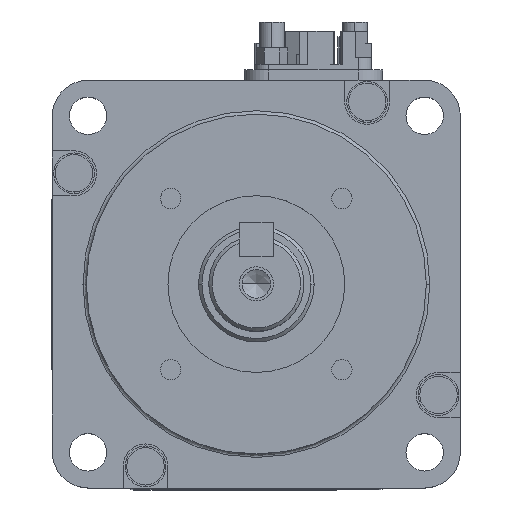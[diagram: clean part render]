
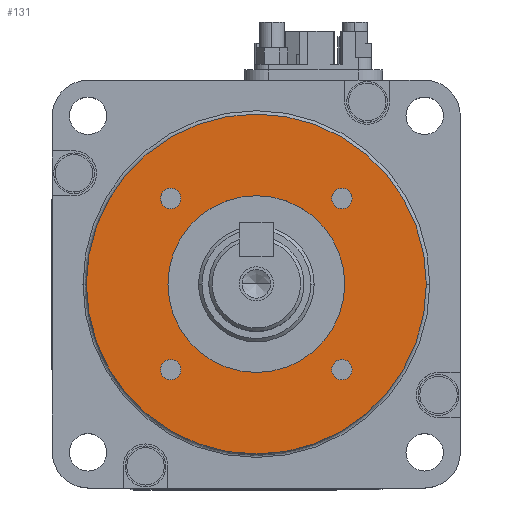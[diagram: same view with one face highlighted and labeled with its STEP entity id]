
A CAD part, top view. The second image highlights one B-rep face of the part: STEP entity #131.
In plain terms, the highlighted planar face has unit normal (0, 0, 1).
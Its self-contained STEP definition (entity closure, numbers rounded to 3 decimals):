
#131=ADVANCED_FACE('',(#845,#846,#847,#848,#849,#850),#844,.T.);
#844=PLANE('',#6167);
#845=FACE_OUTER_BOUND('',#6168,.T.);
#846=FACE_BOUND('',#6169,.T.);
#847=FACE_BOUND('',#6170,.T.);
#848=FACE_BOUND('',#6171,.T.);
#849=FACE_BOUND('',#6172,.T.);
#850=FACE_BOUND('',#6173,.T.);
#6164=CARTESIAN_POINT('',(-57.5,-51.962,3.));
#6165=DIRECTION('',(0.,0.,1.));
#6166=DIRECTION('',(1.,0.,0.));
#6167=AXIS2_PLACEMENT_3D('',#6164,#6165,#6166);
#6168=EDGE_LOOP('',(#9006,#9007));
#6169=EDGE_LOOP('',(#9008,#9009));
#6170=EDGE_LOOP('',(#9010,#9011));
#6171=EDGE_LOOP('',(#9012,#9013));
#6172=EDGE_LOOP('',(#9014,#9015));
#6173=EDGE_LOOP('',(#9016,#9017));
#9006=ORIENTED_EDGE('',*,*,#11791,.T.);
#9007=ORIENTED_EDGE('',*,*,#11792,.T.);
#9008=ORIENTED_EDGE('',*,*,#11793,.F.);
#9009=ORIENTED_EDGE('',*,*,#11794,.F.);
#9010=ORIENTED_EDGE('',*,*,#11795,.F.);
#9011=ORIENTED_EDGE('',*,*,#11796,.F.);
#9012=ORIENTED_EDGE('',*,*,#11797,.F.);
#9013=ORIENTED_EDGE('',*,*,#11798,.F.);
#9014=ORIENTED_EDGE('',*,*,#11799,.F.);
#9015=ORIENTED_EDGE('',*,*,#11800,.F.);
#9016=ORIENTED_EDGE('',*,*,#11801,.F.);
#9017=ORIENTED_EDGE('',*,*,#11802,.F.);
#11791=EDGE_CURVE('',#13860,#13861,#13862,.T.);
#11792=EDGE_CURVE('',#13861,#13860,#13868,.T.);
#11793=EDGE_CURVE('',#13874,#13875,#13876,.T.);
#11794=EDGE_CURVE('',#13875,#13874,#13882,.T.);
#11795=EDGE_CURVE('',#13888,#13889,#13890,.T.);
#11796=EDGE_CURVE('',#13889,#13888,#13896,.T.);
#11797=EDGE_CURVE('',#13902,#13903,#13904,.T.);
#11798=EDGE_CURVE('',#13903,#13902,#13910,.T.);
#11799=EDGE_CURVE('',#13916,#13917,#13918,.T.);
#11800=EDGE_CURVE('',#13917,#13916,#13924,.T.);
#11801=EDGE_CURVE('',#13930,#13931,#13932,.T.);
#11802=EDGE_CURVE('',#13931,#13930,#13938,.T.);
#13860=VERTEX_POINT('',#22968);
#13861=VERTEX_POINT('',#22969);
#13862=CIRCLE('',#22973,25.);
#13868=CIRCLE('',#22977,25.);
#13874=VERTEX_POINT('',#22978);
#13875=VERTEX_POINT('',#22979);
#13876=CIRCLE('',#22983,1.5);
#13882=CIRCLE('',#22987,1.5);
#13888=VERTEX_POINT('',#22988);
#13889=VERTEX_POINT('',#22989);
#13890=CIRCLE('',#22993,1.5);
#13896=CIRCLE('',#22997,1.5);
#13902=VERTEX_POINT('',#22998);
#13903=VERTEX_POINT('',#22999);
#13904=CIRCLE('',#23003,1.5);
#13910=CIRCLE('',#23007,1.5);
#13916=VERTEX_POINT('',#23008);
#13917=VERTEX_POINT('',#23009);
#13918=CIRCLE('',#23013,1.5);
#13924=CIRCLE('',#23017,1.5);
#13930=VERTEX_POINT('',#23018);
#13931=VERTEX_POINT('',#23019);
#13932=CIRCLE('',#23023,13.);
#13938=CIRCLE('',#23027,13.);
#22968=CARTESIAN_POINT('',(25.,0.,3.));
#22969=CARTESIAN_POINT('',(-25.,0.,3.));
#22970=CARTESIAN_POINT('',(0.,0.,3.));
#22971=DIRECTION('',(0.,0.,1.));
#22972=DIRECTION('',(1.,0.,0.));
#22973=AXIS2_PLACEMENT_3D('',#22970,#22971,#22972);
#22974=CARTESIAN_POINT('',(0.,0.,3.));
#22975=DIRECTION('',(0.,0.,1.));
#22976=DIRECTION('',(1.,0.,0.));
#22977=AXIS2_PLACEMENT_3D('',#22974,#22975,#22976);
#22978=CARTESIAN_POINT('',(14.087,-12.587,3.));
#22979=CARTESIAN_POINT('',(11.087,-12.587,3.));
#22980=CARTESIAN_POINT('',(12.587,-12.587,3.));
#22981=DIRECTION('',(0.,0.,1.));
#22982=DIRECTION('',(-1.,0.,0.));
#22983=AXIS2_PLACEMENT_3D('',#22980,#22981,#22982);
#22984=CARTESIAN_POINT('',(12.587,-12.587,3.));
#22985=DIRECTION('',(0.,0.,1.));
#22986=DIRECTION('',(-1.,0.,0.));
#22987=AXIS2_PLACEMENT_3D('',#22984,#22985,#22986);
#22988=CARTESIAN_POINT('',(-11.087,-12.587,3.));
#22989=CARTESIAN_POINT('',(-14.087,-12.587,3.));
#22990=CARTESIAN_POINT('',(-12.587,-12.587,3.));
#22991=DIRECTION('',(0.,0.,1.));
#22992=DIRECTION('',(-1.,0.,0.));
#22993=AXIS2_PLACEMENT_3D('',#22990,#22991,#22992);
#22994=CARTESIAN_POINT('',(-12.587,-12.587,3.));
#22995=DIRECTION('',(0.,0.,1.));
#22996=DIRECTION('',(-1.,0.,0.));
#22997=AXIS2_PLACEMENT_3D('',#22994,#22995,#22996);
#22998=CARTESIAN_POINT('',(-11.087,12.587,3.));
#22999=CARTESIAN_POINT('',(-14.087,12.587,3.));
#23000=CARTESIAN_POINT('',(-12.587,12.587,3.));
#23001=DIRECTION('',(0.,0.,1.));
#23002=DIRECTION('',(-1.,0.,0.));
#23003=AXIS2_PLACEMENT_3D('',#23000,#23001,#23002);
#23004=CARTESIAN_POINT('',(-12.587,12.587,3.));
#23005=DIRECTION('',(0.,0.,1.));
#23006=DIRECTION('',(-1.,0.,0.));
#23007=AXIS2_PLACEMENT_3D('',#23004,#23005,#23006);
#23008=CARTESIAN_POINT('',(14.087,12.587,3.));
#23009=CARTESIAN_POINT('',(11.087,12.587,3.));
#23010=CARTESIAN_POINT('',(12.587,12.587,3.));
#23011=DIRECTION('',(0.,0.,1.));
#23012=DIRECTION('',(-1.,0.,0.));
#23013=AXIS2_PLACEMENT_3D('',#23010,#23011,#23012);
#23014=CARTESIAN_POINT('',(12.587,12.587,3.));
#23015=DIRECTION('',(0.,0.,1.));
#23016=DIRECTION('',(-1.,0.,0.));
#23017=AXIS2_PLACEMENT_3D('',#23014,#23015,#23016);
#23018=CARTESIAN_POINT('',(13.,0.,3.));
#23019=CARTESIAN_POINT('',(-13.,0.,3.));
#23020=CARTESIAN_POINT('',(0.,0.,3.));
#23021=DIRECTION('',(0.,0.,1.));
#23022=DIRECTION('',(-1.,0.,0.));
#23023=AXIS2_PLACEMENT_3D('',#23020,#23021,#23022);
#23024=CARTESIAN_POINT('',(0.,0.,3.));
#23025=DIRECTION('',(0.,0.,1.));
#23026=DIRECTION('',(-1.,0.,0.));
#23027=AXIS2_PLACEMENT_3D('',#23024,#23025,#23026);
